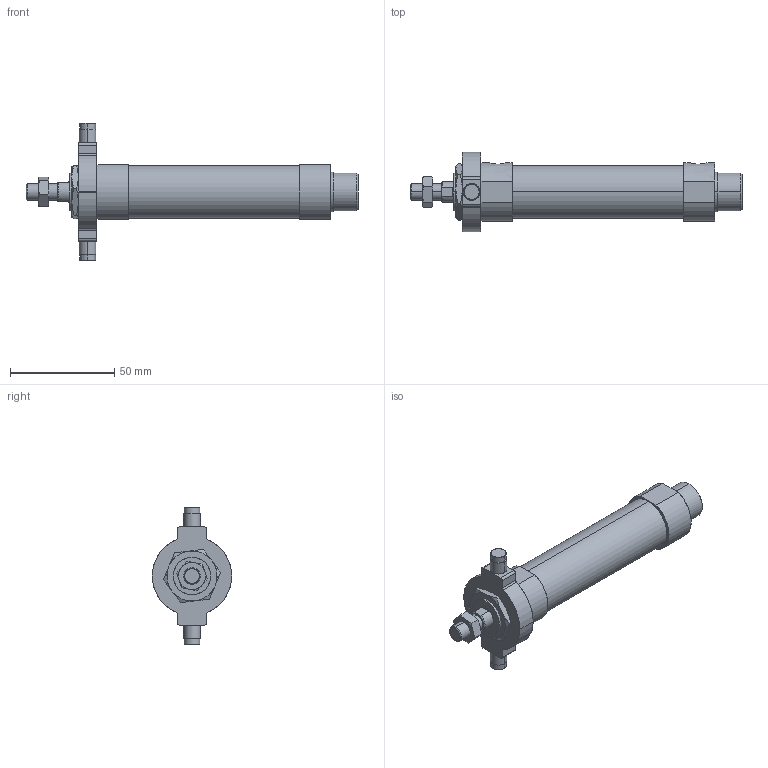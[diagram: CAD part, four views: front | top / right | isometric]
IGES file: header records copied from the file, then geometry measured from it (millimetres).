
Start section: SolidWorks IGES file using analytic representation for surfaces
Global section: file name: C:\Users\Toshiba\Desktop\J#2-20-50-T.IGS; native system: SolidWorks 2014; preprocessor: SolidWorks 2014; author: Toshiba; date: 160308.145817; units: millimetre
Bounding box: 159 x 38 x 66 mm (x, y, z)
Surface area: 18923.7 mm2 (no closed solid volume)
Topology: 0 solids, 0 shells, 131 faces, 2124 edges, 2124 vertices
Faces by surface type: bspline 70, revolution 61
